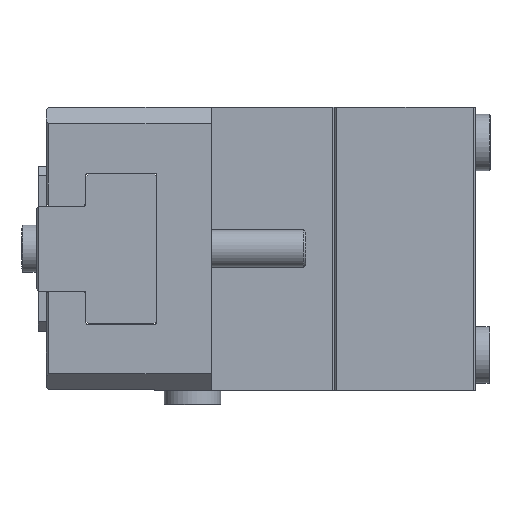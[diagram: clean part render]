
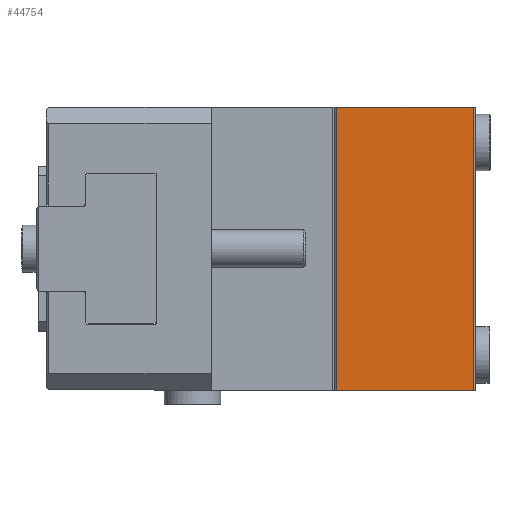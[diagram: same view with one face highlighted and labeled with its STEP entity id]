
A CAD part, left-side view. The second image highlights one B-rep face of the part: STEP entity #44754.
In plain terms, the highlighted planar face has unit normal (-1, 0, 0).
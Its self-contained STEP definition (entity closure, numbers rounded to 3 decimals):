
#194 = LINE ( 'NONE', #4895, #31798 ) ;
#630 = VERTEX_POINT ( 'NONE', #44280 ) ;
#2967 = AXIS2_PLACEMENT_3D ( 'NONE', #51959, #3352, #32207 ) ;
#3352 = DIRECTION ( 'NONE',  ( 1., 0., 0. ) ) ;
#4009 = DIRECTION ( 'NONE',  ( 0., 0., 1. ) ) ;
#4895 = CARTESIAN_POINT ( 'NONE',  ( -50., 70.5, -30. ) ) ;
#5892 = CARTESIAN_POINT ( 'NONE',  ( -50., 0.5, 30. ) ) ;
#6339 = CARTESIAN_POINT ( 'NONE',  ( -50., 0.5, -30. ) ) ;
#9842 = ORIENTED_EDGE ( 'NONE', *, *, #35851, .F. ) ;
#10316 = DIRECTION ( 'NONE',  ( 0., 0., 1. ) ) ;
#10505 = VERTEX_POINT ( 'NONE', #6339 ) ;
#11810 = VECTOR ( 'NONE', #10316, 1000. ) ;
#15806 = EDGE_CURVE ( 'NONE', #10505, #36230, #194, .T. ) ;
#18593 = VECTOR ( 'NONE', #4009, 1000. ) ;
#20265 = VECTOR ( 'NONE', #21530, 1000. ) ;
#21530 = DIRECTION ( 'NONE',  ( 0., 1., 0. ) ) ;
#26900 = CARTESIAN_POINT ( 'NONE',  ( -50., 0.5, 30. ) ) ;
#28053 = PLANE ( 'NONE',  #2967 ) ;
#29013 = CARTESIAN_POINT ( 'NONE',  ( -50., 29.5, -30. ) ) ;
#29280 = ORIENTED_EDGE ( 'NONE', *, *, #52764, .T. ) ;
#31221 = LINE ( 'NONE', #37959, #20265 ) ;
#31798 = VECTOR ( 'NONE', #46067, 1000. ) ;
#32207 = DIRECTION ( 'NONE',  ( 0., 0., -1. ) ) ;
#32872 = CARTESIAN_POINT ( 'NONE',  ( -50., 29.5, 30. ) ) ;
#33289 = VERTEX_POINT ( 'NONE', #5892 ) ;
#35424 = FACE_OUTER_BOUND ( 'NONE', #43323, .T. ) ;
#35851 = EDGE_CURVE ( 'NONE', #36230, #630, #40572, .T. ) ;
#36230 = VERTEX_POINT ( 'NONE', #29013 ) ;
#37959 = CARTESIAN_POINT ( 'NONE',  ( -50., 70.5, 30. ) ) ;
#40572 = LINE ( 'NONE', #32872, #18593 ) ;
#41606 = EDGE_CURVE ( 'NONE', #10505, #33289, #44787, .T. ) ;
#43323 = EDGE_LOOP ( 'NONE', ( #50029, #29280, #9842, #52362 ) ) ;
#44280 = CARTESIAN_POINT ( 'NONE',  ( -50., 29.5, 30. ) ) ;
#44754 = ADVANCED_FACE ( 'NONE', ( #35424 ), #28053, .F. ) ;
#44787 = LINE ( 'NONE', #26900, #11810 ) ;
#46067 = DIRECTION ( 'NONE',  ( 0., 1., 0. ) ) ;
#50029 = ORIENTED_EDGE ( 'NONE', *, *, #41606, .T. ) ;
#51959 = CARTESIAN_POINT ( 'NONE',  ( -50., 0.5, 30. ) ) ;
#52362 = ORIENTED_EDGE ( 'NONE', *, *, #15806, .F. ) ;
#52764 = EDGE_CURVE ( 'NONE', #33289, #630, #31221, .T. ) ;
